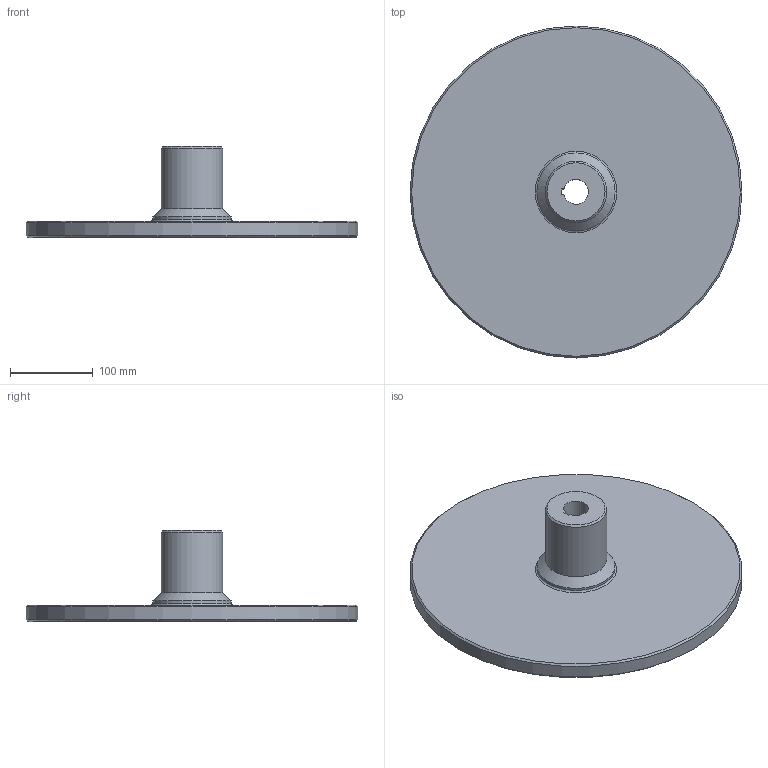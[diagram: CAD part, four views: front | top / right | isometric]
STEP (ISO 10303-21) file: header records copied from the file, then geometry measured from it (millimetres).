
FILE_DESCRIPTION(/* description */ (''),/* implementation_level */ '2;1');
FILE_NAME(/* name */ 'C:\Users\vlakrc01\Desktop\COUPLINGS\04 RKX STEP\RKMWD 20\76551.stp',/* time_stamp */ '2017-03-15T13:31:55+01:00',/* author */ ('vlakrc01'),/* organization */ (''),/* preprocessor_version */ 'ST-DEVELOPER v16.1',/* originating_system */ 'Autodesk Inventor 2016',/* authorisation */ '');
FILE_SCHEMA (('AUTOMOTIVE_DESIGN { 1 0 10303 214 3 1 1 }'));
Length unit declared in the file: millimetre
Products named in the file (1): 76551_Shrinkwrap_1
Bounding box: 400 x 400 x 110 mm (x, y, z)
Volume: 2841367.9 mm3; surface area: 303157.1 mm2
Topology: 1 solids, 3 shells, 25 faces, 55 edges, 35 vertices
Faces by surface type: cone 9, plane 8, cylinder 6, bspline 1, torus 1
Full cylindrical faces by diameter (mm): 70 x2, 74 x1, 94 x1, 400 x1
Entity records: 829 total; most frequent: CARTESIAN_POINT 284, DIRECTION 101, ORIENTED_EDGE 70, EDGE_LOOP 45, AXIS2_PLACEMENT_3D 45, EDGE_CURVE 35, VERTEX_POINT 30, STYLED_ITEM 26
